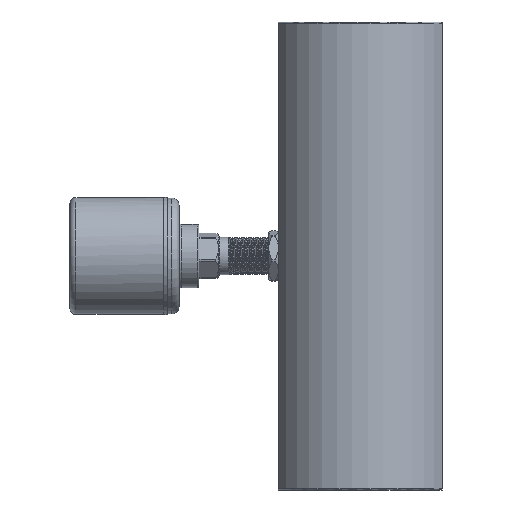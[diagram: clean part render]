
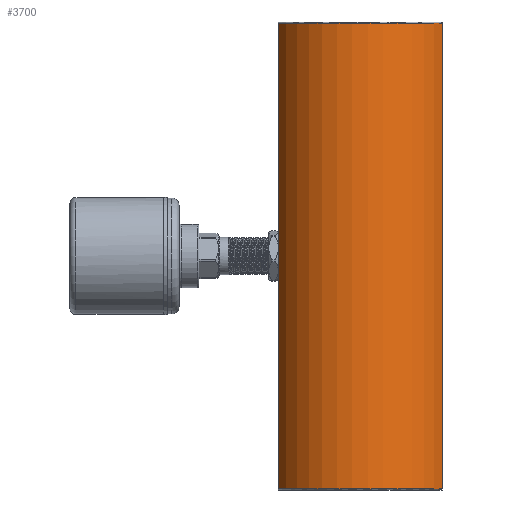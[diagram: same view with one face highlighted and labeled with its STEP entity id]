
A CAD part, left-side view. The second image highlights one B-rep face of the part: STEP entity #3700.
In plain terms, the highlighted cylindrical face has radius 39 mm (diameter 78 mm), a partial arc.
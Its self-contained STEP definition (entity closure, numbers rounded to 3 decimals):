
#303 = CARTESIAN_POINT ( 'NONE',  ( 35., 17.205, 99.5 ) ) ;
#1694 = DIRECTION ( 'NONE',  ( 0., 0., -1. ) ) ;
#1971 = AXIS2_PLACEMENT_3D ( 'NONE', #10873, #16318, #9555 ) ;
#2175 = ORIENTED_EDGE ( 'NONE', *, *, #18255, .T. ) ;
#2283 = ORIENTED_EDGE ( 'NONE', *, *, #20770, .T. ) ;
#3250 = DIRECTION ( 'NONE',  ( -1., 0., 0. ) ) ;
#3700 = ADVANCED_FACE ( 'NONE', ( #4896 ), #20962, .T. ) ;
#4273 = DIRECTION ( 'NONE',  ( 0., 0., -1. ) ) ;
#4896 = FACE_OUTER_BOUND ( 'NONE', #7268, .T. ) ;
#5540 = CARTESIAN_POINT ( 'NONE',  ( -35., 17.205, -99.5 ) ) ;
#7057 = CARTESIAN_POINT ( 'NONE',  ( 35., 17.205, 100. ) ) ;
#7268 = EDGE_LOOP ( 'NONE', ( #2283, #2175, #9776, #18870 ) ) ;
#8302 = LINE ( 'NONE', #15322, #14217 ) ;
#8967 = DIRECTION ( 'NONE',  ( 0., 0., -1. ) ) ;
#9555 = DIRECTION ( 'NONE',  ( 1., 0., 0. ) ) ;
#9776 = ORIENTED_EDGE ( 'NONE', *, *, #22883, .F. ) ;
#10873 = CARTESIAN_POINT ( 'NONE',  ( 0., 0., -99.5 ) ) ;
#12049 = VERTEX_POINT ( 'NONE', #18090 ) ;
#12293 = CARTESIAN_POINT ( 'NONE',  ( 0., 0., 100. ) ) ;
#12537 = AXIS2_PLACEMENT_3D ( 'NONE', #17984, #8967, #16196 ) ;
#13340 = VERTEX_POINT ( 'NONE', #22872 ) ;
#13476 = EDGE_CURVE ( 'NONE', #12049, #22104, #18579, .T. ) ;
#13705 = DIRECTION ( 'NONE',  ( 0., 0., -1. ) ) ;
#14217 = VECTOR ( 'NONE', #4273, 1000. ) ;
#15287 = VECTOR ( 'NONE', #1694, 1000. ) ;
#15322 = CARTESIAN_POINT ( 'NONE',  ( -35., 17.205, 100. ) ) ;
#16196 = DIRECTION ( 'NONE',  ( 1., 0., 0. ) ) ;
#16318 = DIRECTION ( 'NONE',  ( 0., 0., 1. ) ) ;
#17563 = AXIS2_PLACEMENT_3D ( 'NONE', #12293, #13705, #3250 ) ;
#17963 = LINE ( 'NONE', #7057, #15287 ) ;
#17984 = CARTESIAN_POINT ( 'NONE',  ( 0., 0., 99.5 ) ) ;
#18090 = CARTESIAN_POINT ( 'NONE',  ( -35., 17.205, 99.5 ) ) ;
#18255 = EDGE_CURVE ( 'NONE', #13340, #20072, #22466, .T. ) ;
#18579 = CIRCLE ( 'NONE', #12537, 39. ) ;
#18870 = ORIENTED_EDGE ( 'NONE', *, *, #13476, .T. ) ;
#20072 = VERTEX_POINT ( 'NONE', #5540 ) ;
#20770 = EDGE_CURVE ( 'NONE', #22104, #13340, #17963, .T. ) ;
#20962 = CYLINDRICAL_SURFACE ( 'NONE', #17563, 39. ) ;
#22104 = VERTEX_POINT ( 'NONE', #303 ) ;
#22466 = CIRCLE ( 'NONE', #1971, 39. ) ;
#22872 = CARTESIAN_POINT ( 'NONE',  ( 35., 17.205, -99.5 ) ) ;
#22883 = EDGE_CURVE ( 'NONE', #12049, #20072, #8302, .T. ) ;
